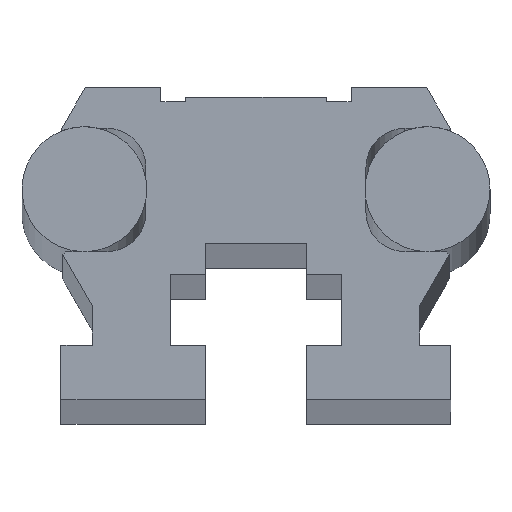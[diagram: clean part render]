
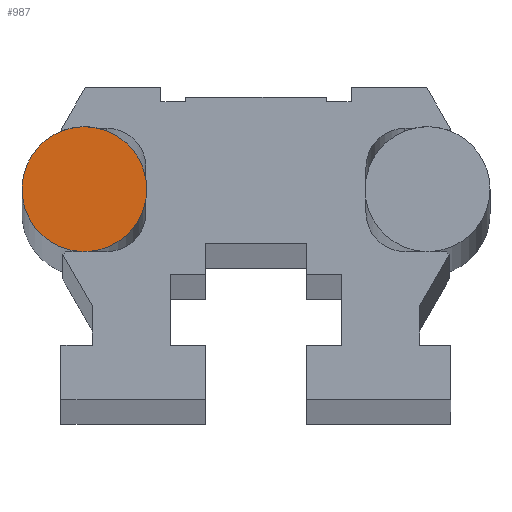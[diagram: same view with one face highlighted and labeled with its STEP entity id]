
A CAD part, top view. The second image highlights one B-rep face of the part: STEP entity #987.
In plain terms, the highlighted planar face has unit normal (0, 0, 1).
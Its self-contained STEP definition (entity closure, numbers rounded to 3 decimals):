
#239 = VERTEX_POINT ( 'NONE', #1295 ) ;
#241 = EDGE_CURVE ( 'NONE', #239, #242, #1294, .T. ) ;
#242 = VERTEX_POINT ( 'NONE', #1289 ) ;
#259 = VERTEX_POINT ( 'NONE', #1315 ) ;
#261 = EDGE_CURVE ( 'NONE', #262, #259, #1314, .T. ) ;
#262 = VERTEX_POINT ( 'NONE', #1309 ) ;
#275 = EDGE_CURVE ( 'NONE', #276, #277, #1383, .T. ) ;
#276 = VERTEX_POINT ( 'NONE', #1379 ) ;
#277 = VERTEX_POINT ( 'NONE', #1378 ) ;
#318 = VERTEX_POINT ( 'NONE', #1774 ) ;
#320 = EDGE_CURVE ( 'NONE', #277, #318, #1622, .T. ) ;
#922 = EDGE_CURVE ( 'NONE', #318, #242, #2516, .T. ) ;
#925 = EDGE_CURVE ( 'NONE', #259, #276, #2505, .T. ) ;
#986 = EDGE_CURVE ( 'NONE', #239, #262, #2453, .T. ) ;
#987 = ADVANCED_FACE ( 'NONE', ( #2400 ), #2399, .T. ) ;
#988 = EDGE_LOOP ( 'NONE', ( #989, #990, #991, #992, #993, #994, #995 ) ) ;
#989 = ORIENTED_EDGE ( 'NONE', *, *, #320, .T. ) ;
#990 = ORIENTED_EDGE ( 'NONE', *, *, #922, .T. ) ;
#991 = ORIENTED_EDGE ( 'NONE', *, *, #241, .F. ) ;
#992 = ORIENTED_EDGE ( 'NONE', *, *, #986, .T. ) ;
#993 = ORIENTED_EDGE ( 'NONE', *, *, #261, .T. ) ;
#994 = ORIENTED_EDGE ( 'NONE', *, *, #925, .T. ) ;
#995 = ORIENTED_EDGE ( 'NONE', *, *, #275, .T. ) ;
#1289 = CARTESIAN_POINT ( 'NONE',  ( -12.324, 17.275, -1.5 ) ) ;
#1290 = DIRECTION ( 'NONE',  ( 1., 0., 0. ) ) ;
#1291 = DIRECTION ( 'NONE',  ( 0., 0., -1. ) ) ;
#1292 = CARTESIAN_POINT ( 'NONE',  ( -11., 13.5, -1.5 ) ) ;
#1293 = AXIS2_PLACEMENT_3D ( 'NONE', #1292, #1291, #1290 ) ;
#1294 = CIRCLE ( 'NONE', #1293, 4. ) ;
#1295 = CARTESIAN_POINT ( 'NONE',  ( -11.25, 9.508, -1.5 ) ) ;
#1309 = CARTESIAN_POINT ( 'NONE',  ( -10.75, 9.508, -1.5 ) ) ;
#1310 = DIRECTION ( 'NONE',  ( 1., 0., 0. ) ) ;
#1311 = DIRECTION ( 'NONE',  ( 0., 0., 1. ) ) ;
#1312 = CARTESIAN_POINT ( 'NONE',  ( -11., 13.5, -1.5 ) ) ;
#1313 = AXIS2_PLACEMENT_3D ( 'NONE', #1312, #1311, #1310 ) ;
#1314 = CIRCLE ( 'NONE', #1313, 4. ) ;
#1315 = CARTESIAN_POINT ( 'NONE',  ( -7.05, 12.87, -1.5 ) ) ;
#1378 = CARTESIAN_POINT ( 'NONE',  ( -7.05, 14.13, -1.5 ) ) ;
#1379 = CARTESIAN_POINT ( 'NONE',  ( -7., 13.5, -1.5 ) ) ;
#1380 = DIRECTION ( 'NONE',  ( 1., 0., 0. ) ) ;
#1381 = DIRECTION ( 'NONE',  ( 0., 0., 1. ) ) ;
#1382 = AXIS2_PLACEMENT_3D ( 'NONE', #1387, #1381, #1380 ) ;
#1383 = CIRCLE ( 'NONE', #1382, 4. ) ;
#1387 = CARTESIAN_POINT ( 'NONE',  ( -11., 13.5, -1.5 ) ) ;
#1619 = DIRECTION ( 'NONE',  ( 1., 0., 0. ) ) ;
#1620 = DIRECTION ( 'NONE',  ( 0., 0., 1. ) ) ;
#1621 = AXIS2_PLACEMENT_3D ( 'NONE', #1773, #1620, #1619 ) ;
#1622 = CIRCLE ( 'NONE', #1621, 4. ) ;
#1773 = CARTESIAN_POINT ( 'NONE',  ( -11., 13.5, -1.5 ) ) ;
#1774 = CARTESIAN_POINT ( 'NONE',  ( -10.111, 17.4, -1.5 ) ) ;
#2395 = DIRECTION ( 'NONE',  ( 1., 0., 0. ) ) ;
#2396 = DIRECTION ( 'NONE',  ( 0., 0., 1. ) ) ;
#2397 = CARTESIAN_POINT ( 'NONE',  ( -11., 13.5, -1.5 ) ) ;
#2398 = AXIS2_PLACEMENT_3D ( 'NONE', #2397, #2396, #2395 ) ;
#2399 = PLANE ( 'NONE',  #2398 ) ;
#2400 = FACE_OUTER_BOUND ( 'NONE', #988, .T. ) ;
#2401 = DIRECTION ( 'NONE',  ( 1., 0., 0. ) ) ;
#2451 = DIRECTION ( 'NONE',  ( 0., 0., 1. ) ) ;
#2452 = AXIS2_PLACEMENT_3D ( 'NONE', #2458, #2451, #2401 ) ;
#2453 = CIRCLE ( 'NONE', #2452, 4. ) ;
#2458 = CARTESIAN_POINT ( 'NONE',  ( -11., 13.5, -1.5 ) ) ;
#2497 = DIRECTION ( 'NONE',  ( 1., 0., 0. ) ) ;
#2498 = DIRECTION ( 'NONE',  ( 0., 0., 1. ) ) ;
#2499 = CARTESIAN_POINT ( 'NONE',  ( -11., 13.5, -1.5 ) ) ;
#2500 = AXIS2_PLACEMENT_3D ( 'NONE', #2499, #2498, #2497 ) ;
#2505 = CIRCLE ( 'NONE', #2500, 4. ) ;
#2508 = DIRECTION ( 'NONE',  ( 1., 0., 0. ) ) ;
#2509 = DIRECTION ( 'NONE',  ( 0., 0., 1. ) ) ;
#2510 = CARTESIAN_POINT ( 'NONE',  ( -11., 13.5, -1.5 ) ) ;
#2511 = AXIS2_PLACEMENT_3D ( 'NONE', #2510, #2509, #2508 ) ;
#2516 = CIRCLE ( 'NONE', #2511, 4. ) ;
